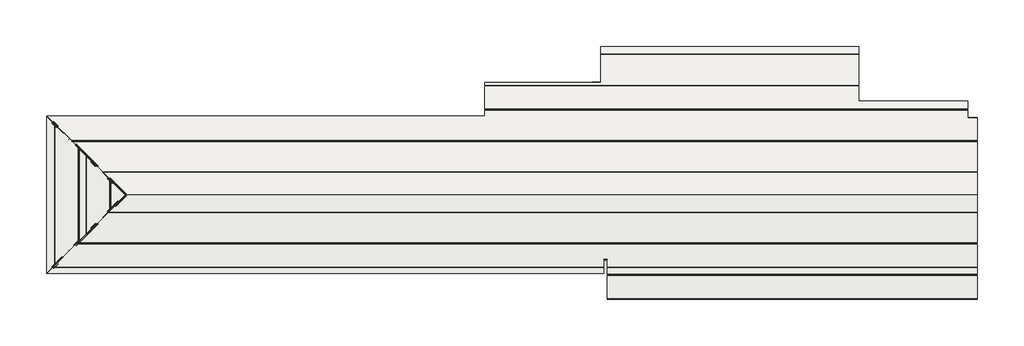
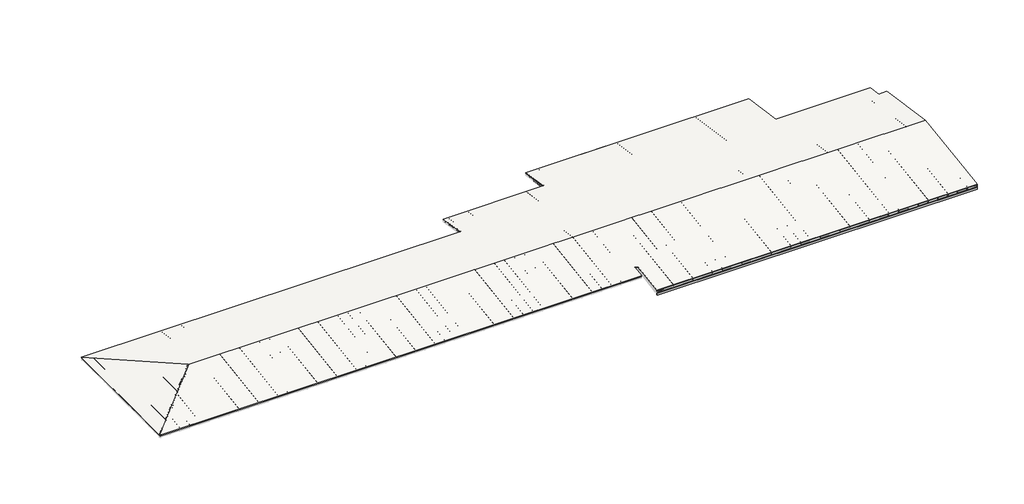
# One storey, part 5 of 5: 55 members, 42 plates, 1 roof.
"""IFC4 building model written with IfcOpenShell, lengths in millimetres."""

from ifc_helpers import new_model, si_unit, origin, place, context, project, spatial, faceted_brep, transform, mapped, element, save
from components import rectangular_mullion_e44f3b2a, rectangular_mullion_c1538282, rectangular_mullion_f0feb93f, rectangular_mullion_bbf62922, rectangular_mullion_a241c94e, rectangular_mullion_44cb0782, rectangular_mullion_a27f073b, rectangular_mullion_523a1e29, rectangular_mullion_317d1510, rectangular_mullion_25aaa9f0, rectangular_mullion_6428f46a, rectangular_mullion_7ad25f31, rectangular_mullion_cb0b4bce, rectangular_mullion_491340ea, rectangular_mullion_ae74f95d, rectangular_mullion_4a84ea43, rectangular_mullion_44281da4, rectangular_mullion_427d9570, rectangular_mullion_3ea6ea9c, rectangular_mullion_c6be1113, rectangular_mullion_7b304f96, rectangular_mullion_611aebc0, rectangular_mullion_e5008ad0, rectangular_mullion_024f61ed, rectangular_mullion_c7bb4686, rectangular_mullion_caibro_4x6_cm_94adb570, rectangular_mullion_caibro_4x6_cm_8db0eb8b, rectangular_mullion_caibro_4x6_cm_f4ec4d87, rectangular_mullion_caibro_4x6_cm_68492c16, rectangular_mullion_caibro_4x6_cm_abc5e238, rectangular_mullion_caibro_4x6_cm_1ae113c8, rectangular_mullion_caibro_4x6_cm_e77ada83, rectangular_mullion_caibro_4x6_cm_eca2e789, empty_system_panel_empty_de6883da, empty_system_panel_empty_43b0b6da, empty_system_panel_empty_60ba83e2, empty_system_panel_empty_f2c2cbee, empty_system_panel_empty_e3afee98, empty_system_panel_empty_89ad5770, empty_system_panel_empty_96c9f712, empty_system_panel_empty_3b86aaa0, empty_system_panel_empty_4ee4dad1

model = new_model("IFC4")

# Units and contexts
model_context = context("Model", 3, world=origin())
ifc_project = project(units=[si_unit("LENGTHUNIT", "METRE", prefix="MILLI")], contexts=[model_context])

# Site, building, storey
site = spatial("IfcSite", under=ifc_project)
building = spatial("IfcBuilding", under=site)
storey = spatial("IfcBuildingStorey", under=building, Name="NÍVEL 1", Elevation=3400.0)

# Members
placement = place(None, origin())
rectangular_mullion_shape = rectangular_mullion_e44f3b2a(model_context)
element("IfcMember", 1, ObjectType="Rectangular Mullion : TERÇA 6x12 cm", at=placement, inside=storey, context=model_context, shape_type="MappedRepresentation", body=[
    mapped(rectangular_mullion_shape, transform((17677.6165906, -9817.0637549, 3061.8287548), x_axis=(0.0, -0.9889363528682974, -0.1483404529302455), y_axis=(0.0, 0.1483404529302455, -0.9889363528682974), z_axis=(1.0, 0.0, 0.0))),
])
rectangular_mullion_2_shape = rectangular_mullion_c1538282(model_context)
element("IfcMember", 2, ObjectType="Rectangular Mullion : TERÇA 6x12 cm", at=placement, inside=storey, context=model_context, shape_type="MappedRepresentation", body=[
    mapped(rectangular_mullion_2_shape, transform((17257.6165906, -1867.0637549, 3235.8287548), x_axis=(0.0, 0.9889363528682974, -0.1483404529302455), y_axis=(0.0, -0.1483404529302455, -0.9889363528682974), z_axis=(-1.0, 0.0, 0.0))),
])
rectangular_mullion_3_shape = rectangular_mullion_f0feb93f(model_context)
element("IfcMember", 3, ObjectType="Rectangular Mullion : RIPA 4x2 cm", at=placement, inside=storey, context=model_context, shape_type="MappedRepresentation", body=[
    mapped(rectangular_mullion_3_shape, transform((17677.6165906, -9817.0637549, 3122.5), x_axis=(0.0, -0.9889363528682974, -0.1483404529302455), y_axis=(0.0, 0.1483404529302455, -0.9889363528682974), z_axis=(1.0, 0.0, 0.0))),
])
rectangular_mullion_4_shape = rectangular_mullion_bbf62922(model_context)
element("IfcMember", 4, ObjectType="Rectangular Mullion : RIPA 4x2 cm", at=placement, inside=storey, context=model_context, shape_type="MappedRepresentation", body=[
    mapped(rectangular_mullion_4_shape, transform((17677.6165906, -5252.0637549, 3807.25), x_axis=(0.0, -0.9889363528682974, 0.1483404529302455), y_axis=(0.0, -0.1483404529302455, -0.9889363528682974), z_axis=(1.0, 0.0, 0.0))),
])
rectangular_mullion_5_shape = rectangular_mullion_a241c94e(model_context)
element("IfcMember", 5, ObjectType="Rectangular Mullion : RIPA 4x2 cm", at=placement, inside=storey, context=model_context, shape_type="MappedRepresentation", body=[
    mapped(rectangular_mullion_5_shape, transform((17257.6165906, -1867.0637549, 3299.5), x_axis=(0.0, 0.9889363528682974, -0.1483404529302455), y_axis=(0.0, -0.1483404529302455, -0.9889363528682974), z_axis=(-1.0, 0.0, 0.0))),
])
rectangular_mullion_6_shape = rectangular_mullion_44cb0782(model_context)
element("IfcMember", 6, ObjectType="Rectangular Mullion : RIPA 4x2 cm", at=placement, inside=storey, context=model_context, shape_type="MappedRepresentation", body=[
    mapped(rectangular_mullion_6_shape, transform((1107.6165906, 1282.9362451, 2827.0), x_axis=(0.0, 0.9889363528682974, -0.1483404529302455), y_axis=(0.0, -0.1483404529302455, -0.9889363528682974), z_axis=(-1.0, 0.0, 0.0))),
])
rectangular_mullion_7_shape = rectangular_mullion_a27f073b(model_context)
element("IfcMember", 7, ObjectType="Rectangular Mullion : RIPA 4x2 cm", at=placement, inside=storey, context=model_context, shape_type="MappedRepresentation", body=[
    mapped(rectangular_mullion_7_shape, transform((12457.6165906, -1117.0637549, 3187.0), x_axis=(0.0, 0.9889363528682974, -0.1483404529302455), y_axis=(0.0, -0.1483404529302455, -0.9889363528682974), z_axis=(-1.0, 0.0, 0.0))),
])
rectangular_mullion_8_shape = rectangular_mullion_523a1e29(model_context)
element("IfcMember", 8, ObjectType="Rectangular Mullion : RIPA 4x2 cm", at=placement, inside=storey, context=model_context, shape_type="MappedRepresentation", body=[
    mapped(rectangular_mullion_8_shape, transform((12457.6165906, 917.0297946, 2881.8859676), x_axis=(0.0, -0.9889363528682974, 0.1483404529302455), y_axis=(0.0, -0.1483404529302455, -0.9889363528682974), z_axis=(1.0, 0.0, 0.0))),
])
element("IfcMember", 9, ObjectType="Rectangular Mullion : RIPA 4x2 cm", at=placement, inside=storey, context=model_context, shape_type="MappedRepresentation", body=[
    mapped(rectangular_mullion_8_shape, transform((12457.6165906, 570.902071, 2933.8051261), x_axis=(0.0, -0.9889363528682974, 0.1483404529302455), y_axis=(0.0, -0.1483404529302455, -0.9889363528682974), z_axis=(1.0, 0.0, 0.0))),
])
element("IfcMember", 10, ObjectType="Rectangular Mullion : RIPA 4x2 cm", at=placement, inside=storey, context=model_context, shape_type="MappedRepresentation", body=[
    mapped(rectangular_mullion_8_shape, transform((12457.6165906, 224.7743475, 2985.7242846), x_axis=(0.0, -0.9889363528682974, 0.1483404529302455), y_axis=(0.0, -0.1483404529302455, -0.9889363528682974), z_axis=(1.0, 0.0, 0.0))),
])
element("IfcMember", 11, ObjectType="Rectangular Mullion : RIPA 4x2 cm", at=placement, inside=storey, context=model_context, shape_type="MappedRepresentation", body=[
    mapped(rectangular_mullion_8_shape, transform((12457.6165906, -121.353376, 3037.6434432), x_axis=(0.0, -0.9889363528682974, 0.1483404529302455), y_axis=(0.0, -0.1483404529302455, -0.9889363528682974), z_axis=(1.0, 0.0, 0.0))),
])
rectangular_mullion_9_shape = rectangular_mullion_317d1510(model_context)
element("IfcMember", 12, ObjectType="Rectangular Mullion : RIPA 4x2 cm", at=placement, inside=storey, context=model_context, shape_type="MappedRepresentation", body=[
    mapped(rectangular_mullion_9_shape, transform((12457.6165906, -467.4810995, 3089.5626017), x_axis=(0.0, -0.9889363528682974, 0.1483404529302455), y_axis=(0.0, -0.1483404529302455, -0.9889363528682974), z_axis=(1.0, 0.0, 0.0))),
])
element("IfcMember", 13, ObjectType="Rectangular Mullion : RIPA 4x2 cm", at=placement, inside=storey, context=model_context, shape_type="MappedRepresentation", body=[
    mapped(rectangular_mullion_9_shape, transform((12457.6165906, -813.608823, 3141.4817602), x_axis=(0.0, -0.9889363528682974, 0.1483404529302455), y_axis=(0.0, -0.1483404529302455, -0.9889363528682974), z_axis=(1.0, 0.0, 0.0))),
])
rectangular_mullion_10_shape = rectangular_mullion_25aaa9f0(model_context)
element("IfcMember", 14, ObjectType="Rectangular Mullion : RIPA 4x2 cm", at=placement, inside=storey, context=model_context, shape_type="MappedRepresentation", body=[
    mapped(rectangular_mullion_10_shape, transform((17257.6165906, -1159.7365465, 3193.4009187), x_axis=(0.0, -0.9889363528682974, 0.1483404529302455), y_axis=(0.0, -0.1483404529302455, -0.9889363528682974), z_axis=(1.0, 0.0, 0.0))),
])
element("IfcMember", 15, ObjectType="Rectangular Mullion : RIPA 4x2 cm", at=placement, inside=storey, context=model_context, shape_type="MappedRepresentation", body=[
    mapped(rectangular_mullion_10_shape, transform((17257.6165906, -1505.86427, 3245.3200773), x_axis=(0.0, -0.9889363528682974, 0.1483404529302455), y_axis=(0.0, -0.1483404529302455, -0.9889363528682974), z_axis=(1.0, 0.0, 0.0))),
])
rectangular_mullion_11_shape = rectangular_mullion_6428f46a(model_context)
element("IfcMember", 16, ObjectType="Rectangular Mullion : RIPA 4x2 cm", at=placement, inside=storey, context=model_context, shape_type="MappedRepresentation", body=[
    mapped(rectangular_mullion_11_shape, transform((17257.6165906, -1851.9919935, 3297.2392358), x_axis=(0.0, -0.9889363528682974, 0.1483404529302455), y_axis=(0.0, -0.1483404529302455, -0.9889363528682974), z_axis=(1.0, 0.0, 0.0))),
])
rectangular_mullion_12_shape = rectangular_mullion_7ad25f31(model_context)
element("IfcMember", 17, ObjectType="Rectangular Mullion : RIPA 4x2 cm", at=placement, inside=storey, context=model_context, shape_type="MappedRepresentation", body=[
    mapped(rectangular_mullion_12_shape, transform((17677.6165906, -2198.119717, 3349.1583943), x_axis=(0.0, -0.9889363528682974, 0.1483404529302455), y_axis=(0.0, -0.1483404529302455, -0.9889363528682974), z_axis=(1.0, 0.0, 0.0))),
])
rectangular_mullion_13_shape = rectangular_mullion_cb0b4bce(model_context)
element("IfcMember", 18, ObjectType="Rectangular Mullion : RIPA 4x2 cm", at=placement, inside=storey, context=model_context, shape_type="MappedRepresentation", body=[
    mapped(rectangular_mullion_13_shape, transform((17677.6165906, -2544.2474405, 3401.0775528), x_axis=(0.0, -0.9889363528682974, 0.1483404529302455), y_axis=(0.0, -0.1483404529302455, -0.9889363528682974), z_axis=(1.0, 0.0, 0.0))),
])
rectangular_mullion_14_shape = rectangular_mullion_491340ea(model_context)
element("IfcMember", 19, ObjectType="Rectangular Mullion : RIPA 4x2 cm", at=placement, inside=storey, context=model_context, shape_type="MappedRepresentation", body=[
    mapped(rectangular_mullion_14_shape, transform((17677.6165906, -2890.375164, 3452.9967114), x_axis=(0.0, -0.9889363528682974, 0.1483404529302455), y_axis=(0.0, -0.1483404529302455, -0.9889363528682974), z_axis=(1.0, 0.0, 0.0))),
])
rectangular_mullion_15_shape = rectangular_mullion_ae74f95d(model_context)
element("IfcMember", 20, ObjectType="Rectangular Mullion : RIPA 4x2 cm", at=placement, inside=storey, context=model_context, shape_type="MappedRepresentation", body=[
    mapped(rectangular_mullion_15_shape, transform((17677.6165906, -3236.5028875, 3504.9158699), x_axis=(0.0, -0.9889363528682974, 0.1483404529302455), y_axis=(0.0, -0.1483404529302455, -0.9889363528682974), z_axis=(1.0, 0.0, 0.0))),
])
rectangular_mullion_16_shape = rectangular_mullion_4a84ea43(model_context)
element("IfcMember", 21, ObjectType="Rectangular Mullion : RIPA 4x2 cm", at=placement, inside=storey, context=model_context, shape_type="MappedRepresentation", body=[
    mapped(rectangular_mullion_16_shape, transform((17677.6165906, -3582.630611, 3556.8350284), x_axis=(0.0, -0.9889363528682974, 0.1483404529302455), y_axis=(0.0, -0.1483404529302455, -0.9889363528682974), z_axis=(1.0, 0.0, 0.0))),
])
rectangular_mullion_17_shape = rectangular_mullion_44281da4(model_context)
element("IfcMember", 22, ObjectType="Rectangular Mullion : RIPA 4x2 cm", at=placement, inside=storey, context=model_context, shape_type="MappedRepresentation", body=[
    mapped(rectangular_mullion_17_shape, transform((17677.6165906, -3928.7583345, 3608.7541869), x_axis=(0.0, -0.9889363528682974, 0.1483404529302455), y_axis=(0.0, -0.1483404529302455, -0.9889363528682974), z_axis=(1.0, 0.0, 0.0))),
])
rectangular_mullion_18_shape = rectangular_mullion_427d9570(model_context)
element("IfcMember", 23, ObjectType="Rectangular Mullion : RIPA 4x2 cm", at=placement, inside=storey, context=model_context, shape_type="MappedRepresentation", body=[
    mapped(rectangular_mullion_18_shape, transform((17677.6165906, -4274.886058, 3660.6733455), x_axis=(0.0, -0.9889363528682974, 0.1483404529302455), y_axis=(0.0, -0.1483404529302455, -0.9889363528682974), z_axis=(1.0, 0.0, 0.0))),
])
rectangular_mullion_19_shape = rectangular_mullion_3ea6ea9c(model_context)
element("IfcMember", 24, ObjectType="Rectangular Mullion : RIPA 4x2 cm", at=placement, inside=storey, context=model_context, shape_type="MappedRepresentation", body=[
    mapped(rectangular_mullion_19_shape, transform((17677.6165906, -4621.0137815, 3712.592504), x_axis=(0.0, -0.9889363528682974, 0.1483404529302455), y_axis=(0.0, -0.1483404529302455, -0.9889363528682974), z_axis=(1.0, 0.0, 0.0))),
])
rectangular_mullion_20_shape = rectangular_mullion_c6be1113(model_context)
element("IfcMember", 25, ObjectType="Rectangular Mullion : RIPA 4x2 cm", at=placement, inside=storey, context=model_context, shape_type="MappedRepresentation", body=[
    mapped(rectangular_mullion_20_shape, transform((17677.6165906, -4967.141505, 3764.5116625), x_axis=(0.0, -0.9889363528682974, 0.1483404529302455), y_axis=(0.0, -0.1483404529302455, -0.9889363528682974), z_axis=(1.0, 0.0, 0.0))),
])
rectangular_mullion_21_shape = rectangular_mullion_7b304f96(model_context)
element("IfcMember", 26, ObjectType="Rectangular Mullion : TERÇA 6x12 cm", at=placement, inside=storey, context=model_context, shape_type="MappedRepresentation", body=[
    mapped(rectangular_mullion_21_shape, transform((11857.6165906, -1377.8453298, 3162.445991), x_axis=(0.0, -0.9889363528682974, 0.1483404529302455), y_axis=(0.0, -0.1483404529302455, -0.9889363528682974), z_axis=(1.0, 0.0, 0.0))),
])
rectangular_mullion_22_shape = rectangular_mullion_611aebc0(model_context)
element("IfcMember", 27, ObjectType="Rectangular Mullion : TERÇA 6x12 cm", at=placement, inside=storey, context=model_context, shape_type="MappedRepresentation", body=[
    mapped(rectangular_mullion_22_shape, transform((1707.6165906, 682.9362451, 2853.3287548), x_axis=(0.0, 0.9889363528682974, -0.1483404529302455), y_axis=(0.0, -0.1483404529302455, -0.9889363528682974), z_axis=(-1.0, 0.0, 0.0))),
])
rectangular_mullion_23_shape = rectangular_mullion_e5008ad0(model_context)
element("IfcMember", 28, ObjectType="Rectangular Mullion : TERÇA 6x12 cm", at=placement, inside=storey, context=model_context, shape_type="MappedRepresentation", body=[
    mapped(rectangular_mullion_23_shape, transform((11857.6165906, -1717.0637549, 3213.3287548), x_axis=(0.0, 0.9889363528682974, -0.1483404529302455), y_axis=(0.0, -0.1483404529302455, -0.9889363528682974), z_axis=(-1.0, 0.0, 0.0))),
])
rectangular_mullion_24_shape = rectangular_mullion_024f61ed(model_context)
element("IfcMember", 29, ObjectType="Rectangular Mullion : TERÇA 6x12 cm", at=placement, inside=storey, context=model_context, shape_type="MappedRepresentation", body=[
    mapped(rectangular_mullion_24_shape, transform((17677.6165906, -3319.9545423, 3453.7623729), x_axis=(0.0, -0.9889363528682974, 0.1483404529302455), y_axis=(0.0, -0.1483404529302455, -0.9889363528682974), z_axis=(1.0, 0.0, 0.0))),
])
rectangular_mullion_25_shape = rectangular_mullion_c7bb4686(model_context)
element("IfcMember", 30, ObjectType="Rectangular Mullion : TERÇA 6x12 cm", at=placement, inside=storey, context=model_context, shape_type="MappedRepresentation", body=[
    mapped(rectangular_mullion_25_shape, transform((17677.6165906, -5262.0637549, 3745.0787548), x_axis=(0.0, -0.9889363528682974, 0.1483404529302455), y_axis=(0.0, -0.1483404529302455, -0.9889363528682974), z_axis=(1.0, 0.0, 0.0))),
])
rectangular_mullion_caibro_4x6_cm_shape = rectangular_mullion_caibro_4x6_cm_94adb570(model_context)
element("IfcMember", 31, ObjectType="Rectangular Mullion : CAIBRO 4x6 cm", at=placement, inside=storey, context=model_context, shape_type="MappedRepresentation", body=[
    mapped(rectangular_mullion_caibro_4x6_cm_shape, transform((17677.6165906, -5252.0637549, 3807.25), x_axis=(1.0, 0.0, 0.0), y_axis=(0.0, 0.14834045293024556, -0.9889363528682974), z_axis=(0.0, 0.9889363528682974, 0.14834045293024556))),
])
rectangular_mullion_caibro_4x6_cm_2_shape = rectangular_mullion_caibro_4x6_cm_8db0eb8b(model_context)
element("IfcMember", 32, ObjectType="Rectangular Mullion : CAIBRO 4x6 cm", at=placement, inside=storey, context=model_context, shape_type="MappedRepresentation", body=[
    mapped(rectangular_mullion_caibro_4x6_cm_2_shape, transform((17677.6165906, -8717.0637549, 3287.5), x_axis=(1.0, 0.0, 0.0), y_axis=(0.0, 0.14834045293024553, -0.9889363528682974), z_axis=(0.0, 0.9889363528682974, 0.14834045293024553))),
])
rectangular_mullion_caibro_4x6_cm_3_shape = rectangular_mullion_caibro_4x6_cm_f4ec4d87(model_context)
element("IfcMember", 33, ObjectType="Rectangular Mullion : CAIBRO 4x6 cm", at=placement, inside=storey, context=model_context, shape_type="MappedRepresentation", body=[
    mapped(rectangular_mullion_caibro_4x6_cm_3_shape, transform((17677.6165906, -1867.0637549, 3299.5), x_axis=(1.0, 0.0, 0.0), y_axis=(0.0, -0.14834045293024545, -0.9889363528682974), z_axis=(0.0, 0.9889363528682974, -0.14834045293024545))),
])
rectangular_mullion_caibro_4x6_cm_4_shape = rectangular_mullion_caibro_4x6_cm_68492c16(model_context)
element("IfcMember", 34, ObjectType="Rectangular Mullion : CAIBRO 4x6 cm", at=placement, inside=storey, context=model_context, shape_type="MappedRepresentation", body=[
    mapped(rectangular_mullion_caibro_4x6_cm_4_shape, transform((12457.6165906, 1282.9362451, 2827.0), x_axis=(1.0, 0.0, 0.0), y_axis=(0.0, -0.1483404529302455, -0.9889363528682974), z_axis=(0.0, 0.9889363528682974, -0.1483404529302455))),
])
rectangular_mullion_caibro_4x6_cm_5_shape = rectangular_mullion_caibro_4x6_cm_abc5e238(model_context)
element("IfcMember", 35, ObjectType="Rectangular Mullion : CAIBRO 4x6 cm", at=placement, inside=storey, context=model_context, shape_type="MappedRepresentation", body=[
    mapped(rectangular_mullion_caibro_4x6_cm_5_shape, transform((17257.6165906, -1117.0637549, 3187.0), x_axis=(1.0, 0.0, 0.0), y_axis=(0.0, -0.14834045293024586, -0.9889363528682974), z_axis=(0.0, 0.9889363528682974, -0.14834045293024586))),
])
rectangular_mullion_caibro_4x6_cm_6_shape = rectangular_mullion_caibro_4x6_cm_1ae113c8(model_context)
element("IfcMember", 36, ObjectType="Rectangular Mullion : CAIBRO 4x6 cm", at=placement, inside=storey, context=model_context, shape_type="MappedRepresentation", body=[
    mapped(rectangular_mullion_caibro_4x6_cm_6_shape, transform((12186.3138406, -5252.0637549, 3807.25), x_axis=(-1.0, 0.0, 0.0), y_axis=(0.0, -0.14834045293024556, -0.9889363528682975), z_axis=(0.0, -0.9889363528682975, 0.14834045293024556))),
])
rectangular_mullion_caibro_4x6_cm_7_shape = rectangular_mullion_caibro_4x6_cm_e77ada83(model_context)
element("IfcMember", 37, ObjectType="Rectangular Mullion : CAIBRO 4x6 cm", at=placement, inside=storey, context=model_context, shape_type="MappedRepresentation", body=[
    mapped(rectangular_mullion_caibro_4x6_cm_7_shape, transform((13184.7325224, -5252.0637549, 3807.25), x_axis=(1.0, 0.0, 0.0), y_axis=(0.0, 0.14834045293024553, -0.9889363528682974), z_axis=(0.0, 0.9889363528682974, 0.14834045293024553))),
])
element("IfcMember", 38, ObjectType="Rectangular Mullion : CAIBRO 4x6 cm", at=placement, inside=storey, context=model_context, shape_type="MappedRepresentation", body=[
    mapped(rectangular_mullion_caibro_4x6_cm_7_shape, transform((13683.9418633, -5252.0637549, 3807.25), x_axis=(1.0, 0.0, 0.0), y_axis=(0.0, 0.1483404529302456, -0.9889363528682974), z_axis=(0.0, 0.9889363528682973, 0.14834045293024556))),
])
element("IfcMember", 39, ObjectType="Rectangular Mullion : CAIBRO 4x6 cm", at=placement, inside=storey, context=model_context, shape_type="MappedRepresentation", body=[
    mapped(rectangular_mullion_caibro_4x6_cm_7_shape, transform((14183.1512043, -5252.0637549, 3807.25), x_axis=(1.0, 0.0, 0.0), y_axis=(0.0, 0.14834045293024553, -0.9889363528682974), z_axis=(0.0, 0.9889363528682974, 0.14834045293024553))),
])
element("IfcMember", 40, ObjectType="Rectangular Mullion : CAIBRO 4x6 cm", at=placement, inside=storey, context=model_context, shape_type="MappedRepresentation", body=[
    mapped(rectangular_mullion_caibro_4x6_cm_7_shape, transform((14682.3605452, -5252.0637549, 3807.25), x_axis=(1.0, 0.0, 0.0), y_axis=(0.0, 0.14834045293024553, -0.9889363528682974), z_axis=(0.0, 0.9889363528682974, 0.14834045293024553))),
])
element("IfcMember", 41, ObjectType="Rectangular Mullion : CAIBRO 4x6 cm", at=placement, inside=storey, context=model_context, shape_type="MappedRepresentation", body=[
    mapped(rectangular_mullion_caibro_4x6_cm_7_shape, transform((15181.5698861, -5252.0637549, 3807.25), x_axis=(1.0, 0.0, 0.0), y_axis=(0.0, 0.1483404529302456, -0.9889363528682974), z_axis=(0.0, 0.9889363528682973, 0.14834045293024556))),
])
element("IfcMember", 42, ObjectType="Rectangular Mullion : CAIBRO 4x6 cm", at=placement, inside=storey, context=model_context, shape_type="MappedRepresentation", body=[
    mapped(rectangular_mullion_caibro_4x6_cm_7_shape, transform((15680.779227, -5252.0637549, 3807.25), x_axis=(1.0, 0.0, 0.0), y_axis=(0.0, 0.1483404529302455, -0.9889363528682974), z_axis=(0.0, 0.9889363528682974, 0.1483404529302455))),
])
element("IfcMember", 43, ObjectType="Rectangular Mullion : CAIBRO 4x6 cm", at=placement, inside=storey, context=model_context, shape_type="MappedRepresentation", body=[
    mapped(rectangular_mullion_caibro_4x6_cm_7_shape, transform((16179.9885679, -5252.0637549, 3807.25), x_axis=(1.0, 0.0, 0.0), y_axis=(0.0, 0.1483404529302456, -0.9889363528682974), z_axis=(0.0, 0.9889363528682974, 0.1483404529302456))),
])
element("IfcMember", 44, ObjectType="Rectangular Mullion : CAIBRO 4x6 cm", at=placement, inside=storey, context=model_context, shape_type="MappedRepresentation", body=[
    mapped(rectangular_mullion_caibro_4x6_cm_7_shape, transform((16679.1979088, -5252.0637549, 3807.25), x_axis=(1.0, 0.0, 0.0), y_axis=(0.0, 0.1483404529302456, -0.9889363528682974), z_axis=(0.0, 0.9889363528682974, 0.1483404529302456))),
])
element("IfcMember", 45, ObjectType="Rectangular Mullion : CAIBRO 4x6 cm", at=placement, inside=storey, context=model_context, shape_type="MappedRepresentation", body=[
    mapped(rectangular_mullion_caibro_4x6_cm_7_shape, transform((17178.4072497, -5252.0637549, 3807.25), x_axis=(1.0, 0.0, 0.0), y_axis=(0.0, 0.14834045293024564, -0.9889363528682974), z_axis=(0.0, 0.9889363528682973, 0.14834045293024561))),
])
rectangular_mullion_caibro_4x6_cm_8_shape = rectangular_mullion_caibro_4x6_cm_eca2e789(model_context)
element("IfcMember", 46, ObjectType="Rectangular Mullion : CAIBRO 4x6 cm", at=placement, inside=storey, context=model_context, shape_type="MappedRepresentation", body=[
    mapped(rectangular_mullion_caibro_4x6_cm_8_shape, transform((17178.4072497, -5252.0637549, 3807.25), x_axis=(-1.0, 0.0, 0.0), y_axis=(0.0, -0.1483404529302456, -0.9889363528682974), z_axis=(0.0, -0.9889363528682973, 0.14834045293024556))),
])
element("IfcMember", 47, ObjectType="Rectangular Mullion : CAIBRO 4x6 cm", at=placement, inside=storey, context=model_context, shape_type="MappedRepresentation", body=[
    mapped(rectangular_mullion_caibro_4x6_cm_8_shape, transform((16679.1979088, -5252.0637549, 3807.25), x_axis=(-1.0, 0.0, 0.0), y_axis=(0.0, -0.14834045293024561, -0.9889363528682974), z_axis=(0.0, -0.9889363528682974, 0.14834045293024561))),
])
element("IfcMember", 48, ObjectType="Rectangular Mullion : CAIBRO 4x6 cm", at=placement, inside=storey, context=model_context, shape_type="MappedRepresentation", body=[
    mapped(rectangular_mullion_caibro_4x6_cm_8_shape, transform((16179.9885679, -5252.0637549, 3807.25), x_axis=(-1.0, 0.0, 0.0), y_axis=(0.0, -0.14834045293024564, -0.9889363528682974), z_axis=(0.0, -0.9889363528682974, 0.14834045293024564))),
])
element("IfcMember", 49, ObjectType="Rectangular Mullion : CAIBRO 4x6 cm", at=placement, inside=storey, context=model_context, shape_type="MappedRepresentation", body=[
    mapped(rectangular_mullion_caibro_4x6_cm_8_shape, transform((15680.779227, -5252.0637549, 3807.25), x_axis=(-1.0, 0.0, 0.0), y_axis=(0.0, -0.14834045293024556, -0.9889363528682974), z_axis=(0.0, -0.9889363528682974, 0.14834045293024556))),
])
element("IfcMember", 50, ObjectType="Rectangular Mullion : CAIBRO 4x6 cm", at=placement, inside=storey, context=model_context, shape_type="MappedRepresentation", body=[
    mapped(rectangular_mullion_caibro_4x6_cm_8_shape, transform((15181.5698861, -5252.0637549, 3807.25), x_axis=(-1.0, 0.0, 0.0), y_axis=(0.0, -0.14834045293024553, -0.9889363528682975), z_axis=(0.0, -0.9889363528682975, 0.14834045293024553))),
])
element("IfcMember", 51, ObjectType="Rectangular Mullion : CAIBRO 4x6 cm", at=placement, inside=storey, context=model_context, shape_type="MappedRepresentation", body=[
    mapped(rectangular_mullion_caibro_4x6_cm_8_shape, transform((14682.3605452, -5252.0637549, 3807.25), x_axis=(-1.0, 0.0, 0.0), y_axis=(0.0, -0.1483404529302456, -0.9889363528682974), z_axis=(0.0, -0.9889363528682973, 0.14834045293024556))),
])
element("IfcMember", 52, ObjectType="Rectangular Mullion : CAIBRO 4x6 cm", at=placement, inside=storey, context=model_context, shape_type="MappedRepresentation", body=[
    mapped(rectangular_mullion_caibro_4x6_cm_8_shape, transform((14183.1512043, -5252.0637549, 3807.25), x_axis=(-1.0, 0.0, 0.0), y_axis=(0.0, -0.14834045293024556, -0.9889363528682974), z_axis=(0.0, -0.9889363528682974, 0.14834045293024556))),
])
element("IfcMember", 53, ObjectType="Rectangular Mullion : CAIBRO 4x6 cm", at=placement, inside=storey, context=model_context, shape_type="MappedRepresentation", body=[
    mapped(rectangular_mullion_caibro_4x6_cm_8_shape, transform((13683.9418633, -5252.0637549, 3807.25), x_axis=(-1.0, 0.0, 0.0), y_axis=(0.0, -0.14834045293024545, -0.9889363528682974), z_axis=(0.0, -0.9889363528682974, 0.14834045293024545))),
])
element("IfcMember", 54, ObjectType="Rectangular Mullion : CAIBRO 4x6 cm", at=placement, inside=storey, context=model_context, shape_type="MappedRepresentation", body=[
    mapped(rectangular_mullion_caibro_4x6_cm_8_shape, transform((13184.7325224, -5252.0637549, 3807.25), x_axis=(-1.0, 0.0, 0.0), y_axis=(0.0, -0.1483404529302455, -0.9889363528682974), z_axis=(0.0, -0.9889363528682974, 0.1483404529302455))),
])
element("IfcMember", 55, ObjectType="Rectangular Mullion : CAIBRO 4x6 cm", at=placement, inside=storey, context=model_context, shape_type="MappedRepresentation", body=[
    mapped(rectangular_mullion_caibro_4x6_cm_8_shape, transform((12685.5231815, -5252.0637549, 3807.25), x_axis=(-1.0, 0.0, 0.0), y_axis=(0.0, -0.14834045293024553, -0.9889363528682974), z_axis=(0.0, -0.9889363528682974, 0.14834045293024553))),
])

# Plates
empty_system_panel_empty_shape = empty_system_panel_empty_de6883da(model_context)
element("IfcPlate", 56, ObjectType="Empty System Panel : Empty", at=placement, inside=storey, context=model_context, shape_type="MappedRepresentation", body=[
    mapped(empty_system_panel_empty_shape, transform((17418.0119202, -1117.0637549, 3187.0), x_axis=(-1.0, 0.0, 0.0), y_axis=(0.0, -0.1483404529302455, -0.9889363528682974), z_axis=(0.0, -0.9889363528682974, 0.1483404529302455))),
])
empty_system_panel_empty_2_shape = empty_system_panel_empty_43b0b6da(model_context)
element("IfcPlate", 57, ObjectType="Empty System Panel : Empty", at=placement, inside=storey, context=model_context, shape_type="MappedRepresentation", body=[
    mapped(empty_system_panel_empty_2_shape, transform((16429.5932384, -9817.0637549, 3122.5), x_axis=(1.0, 0.0, 0.0), y_axis=(0.0, 0.1483404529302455, -0.9889363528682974), z_axis=(0.0, 0.9889363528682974, 0.1483404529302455))),
])
element("IfcPlate", 58, ObjectType="Empty System Panel : Empty", at=placement, inside=storey, context=model_context, shape_type="MappedRepresentation", body=[
    mapped(empty_system_panel_empty_2_shape, transform((16928.8025793, -9817.0637549, 3122.5), x_axis=(1.0, 0.0, 0.0), y_axis=(0.0, 0.1483404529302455, -0.9889363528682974), z_axis=(0.0, 0.9889363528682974, 0.1483404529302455))),
])
empty_system_panel_empty_3_shape = empty_system_panel_empty_60ba83e2(model_context)
element("IfcPlate", 59, ObjectType="Empty System Panel : Empty", at=placement, inside=storey, context=model_context, shape_type="MappedRepresentation", body=[
    mapped(empty_system_panel_empty_3_shape, transform((17418.0119202, -9817.0637549, 3122.5), x_axis=(1.0, 0.0, 0.0), y_axis=(0.0, 0.1483404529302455, -0.9889363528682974), z_axis=(0.0, 0.9889363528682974, 0.1483404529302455))),
])
empty_system_panel_empty_4_shape = empty_system_panel_empty_f2c2cbee(model_context)
element("IfcPlate", 60, ObjectType="Empty System Panel : Empty", at=placement, inside=storey, context=model_context, shape_type="MappedRepresentation", body=[
    mapped(empty_system_panel_empty_4_shape, transform((16928.8025793, -1117.0637549, 3187.0), x_axis=(-1.0, 0.0, 0.0), y_axis=(0.0, -0.1483404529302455, -0.9889363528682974), z_axis=(0.0, -0.9889363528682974, 0.1483404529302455))),
])
element("IfcPlate", 61, ObjectType="Empty System Panel : Empty", at=placement, inside=storey, context=model_context, shape_type="MappedRepresentation", body=[
    mapped(empty_system_panel_empty_4_shape, transform((16429.5932384, -1117.0637549, 3187.0), x_axis=(-1.0, 0.0, 0.0), y_axis=(0.0, -0.1483404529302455, -0.9889363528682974), z_axis=(0.0, -0.9889363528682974, 0.1483404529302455))),
])
element("IfcPlate", 62, ObjectType="Empty System Panel : Empty", at=placement, inside=storey, context=model_context, shape_type="MappedRepresentation", body=[
    mapped(empty_system_panel_empty_4_shape, transform((15930.3838974, -1117.0637549, 3187.0), x_axis=(-1.0, 0.0, 0.0), y_axis=(0.0, -0.1483404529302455, -0.9889363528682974), z_axis=(0.0, -0.9889363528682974, 0.1483404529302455))),
])
element("IfcPlate", 63, ObjectType="Empty System Panel : Empty", at=placement, inside=storey, context=model_context, shape_type="MappedRepresentation", body=[
    mapped(empty_system_panel_empty_4_shape, transform((15431.1745565, -1117.0637549, 3187.0), x_axis=(-1.0, 0.0, 0.0), y_axis=(0.0, -0.1483404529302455, -0.9889363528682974), z_axis=(0.0, -0.9889363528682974, 0.1483404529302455))),
])
element("IfcPlate", 64, ObjectType="Empty System Panel : Empty", at=placement, inside=storey, context=model_context, shape_type="MappedRepresentation", body=[
    mapped(empty_system_panel_empty_4_shape, transform((14931.9652156, -1117.0637549, 3187.0), x_axis=(-1.0, 0.0, 0.0), y_axis=(0.0, -0.1483404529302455, -0.9889363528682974), z_axis=(0.0, -0.9889363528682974, 0.1483404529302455))),
])
element("IfcPlate", 65, ObjectType="Empty System Panel : Empty", at=placement, inside=storey, context=model_context, shape_type="MappedRepresentation", body=[
    mapped(empty_system_panel_empty_4_shape, transform((14432.7558747, -1117.0637549, 3187.0), x_axis=(-1.0, 0.0, 0.0), y_axis=(0.0, -0.1483404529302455, -0.9889363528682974), z_axis=(0.0, -0.9889363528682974, 0.1483404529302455))),
])
element("IfcPlate", 66, ObjectType="Empty System Panel : Empty", at=placement, inside=storey, context=model_context, shape_type="MappedRepresentation", body=[
    mapped(empty_system_panel_empty_4_shape, transform((13933.5465338, -1117.0637549, 3187.0), x_axis=(-1.0, 0.0, 0.0), y_axis=(0.0, -0.1483404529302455, -0.9889363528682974), z_axis=(0.0, -0.9889363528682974, 0.1483404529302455))),
])
element("IfcPlate", 67, ObjectType="Empty System Panel : Empty", at=placement, inside=storey, context=model_context, shape_type="MappedRepresentation", body=[
    mapped(empty_system_panel_empty_4_shape, transform((13434.3371929, -1117.0637549, 3187.0), x_axis=(-1.0, 0.0, 0.0), y_axis=(0.0, -0.1483404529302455, -0.9889363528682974), z_axis=(0.0, -0.9889363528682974, 0.1483404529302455))),
])
element("IfcPlate", 68, ObjectType="Empty System Panel : Empty", at=placement, inside=storey, context=model_context, shape_type="MappedRepresentation", body=[
    mapped(empty_system_panel_empty_4_shape, transform((12935.127852, -1117.0637549, 3187.0), x_axis=(-1.0, 0.0, 0.0), y_axis=(0.0, -0.1483404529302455, -0.9889363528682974), z_axis=(0.0, -0.9889363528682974, 0.1483404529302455))),
])
empty_system_panel_empty_5_shape = empty_system_panel_empty_e3afee98(model_context)
element("IfcPlate", 69, ObjectType="Empty System Panel : Empty", at=placement, inside=storey, context=model_context, shape_type="MappedRepresentation", body=[
    mapped(empty_system_panel_empty_5_shape, transform((12435.9185111, 1282.9362451, 2827.0), x_axis=(-1.0, 0.0, 0.0), y_axis=(0.0, -0.1483404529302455, -0.9889363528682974), z_axis=(0.0, -0.9889363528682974, 0.1483404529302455))),
])
empty_system_panel_empty_6_shape = empty_system_panel_empty_89ad5770(model_context)
element("IfcPlate", 70, ObjectType="Empty System Panel : Empty", at=placement, inside=storey, context=model_context, shape_type="MappedRepresentation", body=[
    mapped(empty_system_panel_empty_6_shape, transform((11936.7091702, 1282.9362451, 2827.0), x_axis=(-1.0, 0.0, 0.0), y_axis=(0.0, -0.1483404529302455, -0.9889363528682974), z_axis=(0.0, -0.9889363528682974, 0.1483404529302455))),
])
element("IfcPlate", 71, ObjectType="Empty System Panel : Empty", at=placement, inside=storey, context=model_context, shape_type="MappedRepresentation", body=[
    mapped(empty_system_panel_empty_6_shape, transform((11437.4998292, 1282.9362451, 2827.0), x_axis=(-1.0, 0.0, 0.0), y_axis=(0.0, -0.1483404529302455, -0.9889363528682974), z_axis=(0.0, -0.9889363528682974, 0.1483404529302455))),
])
element("IfcPlate", 72, ObjectType="Empty System Panel : Empty", at=placement, inside=storey, context=model_context, shape_type="MappedRepresentation", body=[
    mapped(empty_system_panel_empty_6_shape, transform((10938.2904883, 1282.9362451, 2827.0), x_axis=(-1.0, 0.0, 0.0), y_axis=(0.0, -0.1483404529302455, -0.9889363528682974), z_axis=(0.0, -0.9889363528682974, 0.1483404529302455))),
])
element("IfcPlate", 73, ObjectType="Empty System Panel : Empty", at=placement, inside=storey, context=model_context, shape_type="MappedRepresentation", body=[
    mapped(empty_system_panel_empty_6_shape, transform((10439.0811474, 1282.9362451, 2827.0), x_axis=(-1.0, 0.0, 0.0), y_axis=(0.0, -0.1483404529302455, -0.9889363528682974), z_axis=(0.0, -0.9889363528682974, 0.1483404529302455))),
])
element("IfcPlate", 74, ObjectType="Empty System Panel : Empty", at=placement, inside=storey, context=model_context, shape_type="MappedRepresentation", body=[
    mapped(empty_system_panel_empty_6_shape, transform((9939.8718065, 1282.9362451, 2827.0), x_axis=(-1.0, 0.0, 0.0), y_axis=(0.0, -0.1483404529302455, -0.9889363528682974), z_axis=(0.0, -0.9889363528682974, 0.1483404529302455))),
])
element("IfcPlate", 75, ObjectType="Empty System Panel : Empty", at=placement, inside=storey, context=model_context, shape_type="MappedRepresentation", body=[
    mapped(empty_system_panel_empty_6_shape, transform((9440.6624656, 1282.9362451, 2827.0), x_axis=(-1.0, 0.0, 0.0), y_axis=(0.0, -0.1483404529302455, -0.9889363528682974), z_axis=(0.0, -0.9889363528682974, 0.1483404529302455))),
])
element("IfcPlate", 76, ObjectType="Empty System Panel : Empty", at=placement, inside=storey, context=model_context, shape_type="MappedRepresentation", body=[
    mapped(empty_system_panel_empty_6_shape, transform((8941.4531247, 1282.9362451, 2827.0), x_axis=(-1.0, 0.0, 0.0), y_axis=(0.0, -0.1483404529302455, -0.9889363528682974), z_axis=(0.0, -0.9889363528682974, 0.1483404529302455))),
])
element("IfcPlate", 77, ObjectType="Empty System Panel : Empty", at=placement, inside=storey, context=model_context, shape_type="MappedRepresentation", body=[
    mapped(empty_system_panel_empty_6_shape, transform((8442.2437838, 1282.9362451, 2827.0), x_axis=(-1.0, 0.0, 0.0), y_axis=(0.0, -0.1483404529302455, -0.9889363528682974), z_axis=(0.0, -0.9889363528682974, 0.1483404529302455))),
])
element("IfcPlate", 78, ObjectType="Empty System Panel : Empty", at=placement, inside=storey, context=model_context, shape_type="MappedRepresentation", body=[
    mapped(empty_system_panel_empty_6_shape, transform((7943.0344429, 1282.9362451, 2827.0), x_axis=(-1.0, 0.0, 0.0), y_axis=(0.0, -0.1483404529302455, -0.9889363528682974), z_axis=(0.0, -0.9889363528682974, 0.1483404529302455))),
])
element("IfcPlate", 79, ObjectType="Empty System Panel : Empty", at=placement, inside=storey, context=model_context, shape_type="MappedRepresentation", body=[
    mapped(empty_system_panel_empty_6_shape, transform((7443.825102, 1282.9362451, 2827.0), x_axis=(-1.0, 0.0, 0.0), y_axis=(0.0, -0.1483404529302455, -0.9889363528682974), z_axis=(0.0, -0.9889363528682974, 0.1483404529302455))),
])
element("IfcPlate", 80, ObjectType="Empty System Panel : Empty", at=placement, inside=storey, context=model_context, shape_type="MappedRepresentation", body=[
    mapped(empty_system_panel_empty_6_shape, transform((6944.615761, 1282.9362451, 2827.0), x_axis=(-1.0, 0.0, 0.0), y_axis=(0.0, -0.1483404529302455, -0.9889363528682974), z_axis=(0.0, -0.9889363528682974, 0.1483404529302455))),
])
element("IfcPlate", 81, ObjectType="Empty System Panel : Empty", at=placement, inside=storey, context=model_context, shape_type="MappedRepresentation", body=[
    mapped(empty_system_panel_empty_6_shape, transform((6445.4064201, 1282.9362451, 2827.0), x_axis=(-1.0, 0.0, 0.0), y_axis=(0.0, -0.1483404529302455, -0.9889363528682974), z_axis=(0.0, -0.9889363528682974, 0.1483404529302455))),
])
element("IfcPlate", 82, ObjectType="Empty System Panel : Empty", at=placement, inside=storey, context=model_context, shape_type="MappedRepresentation", body=[
    mapped(empty_system_panel_empty_6_shape, transform((5946.1970792, 1282.9362451, 2827.0), x_axis=(-1.0, 0.0, 0.0), y_axis=(0.0, -0.1483404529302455, -0.9889363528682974), z_axis=(0.0, -0.9889363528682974, 0.1483404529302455))),
])
element("IfcPlate", 83, ObjectType="Empty System Panel : Empty", at=placement, inside=storey, context=model_context, shape_type="MappedRepresentation", body=[
    mapped(empty_system_panel_empty_6_shape, transform((5446.9877383, 1282.9362451, 2827.0), x_axis=(-1.0, 0.0, 0.0), y_axis=(0.0, -0.1483404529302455, -0.9889363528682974), z_axis=(0.0, -0.9889363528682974, 0.1483404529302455))),
])
element("IfcPlate", 84, ObjectType="Empty System Panel : Empty", at=placement, inside=storey, context=model_context, shape_type="MappedRepresentation", body=[
    mapped(empty_system_panel_empty_6_shape, transform((4947.7783974, 1282.9362451, 2827.0), x_axis=(-1.0, 0.0, 0.0), y_axis=(0.0, -0.1483404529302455, -0.9889363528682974), z_axis=(0.0, -0.9889363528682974, 0.1483404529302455))),
])
element("IfcPlate", 85, ObjectType="Empty System Panel : Empty", at=placement, inside=storey, context=model_context, shape_type="MappedRepresentation", body=[
    mapped(empty_system_panel_empty_6_shape, transform((4448.5690565, 1282.9362451, 2827.0), x_axis=(-1.0, 0.0, 0.0), y_axis=(0.0, -0.1483404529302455, -0.9889363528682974), z_axis=(0.0, -0.9889363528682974, 0.1483404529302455))),
])
element("IfcPlate", 86, ObjectType="Empty System Panel : Empty", at=placement, inside=storey, context=model_context, shape_type="MappedRepresentation", body=[
    mapped(empty_system_panel_empty_6_shape, transform((3949.3597156, 1282.9362451, 2827.0), x_axis=(-1.0, 0.0, 0.0), y_axis=(0.0, -0.1483404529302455, -0.9889363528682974), z_axis=(0.0, -0.9889363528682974, 0.1483404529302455))),
])
element("IfcPlate", 87, ObjectType="Empty System Panel : Empty", at=placement, inside=storey, context=model_context, shape_type="MappedRepresentation", body=[
    mapped(empty_system_panel_empty_6_shape, transform((3450.1503747, 1282.9362451, 2827.0), x_axis=(-1.0, 0.0, 0.0), y_axis=(0.0, -0.1483404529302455, -0.9889363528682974), z_axis=(0.0, -0.9889363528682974, 0.1483404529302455))),
])
element("IfcPlate", 88, ObjectType="Empty System Panel : Empty", at=placement, inside=storey, context=model_context, shape_type="MappedRepresentation", body=[
    mapped(empty_system_panel_empty_6_shape, transform((2950.9410338, 1282.9362451, 2827.0), x_axis=(-1.0, 0.0, 0.0), y_axis=(0.0, -0.1483404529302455, -0.9889363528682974), z_axis=(0.0, -0.9889363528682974, 0.1483404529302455))),
])
element("IfcPlate", 89, ObjectType="Empty System Panel : Empty", at=placement, inside=storey, context=model_context, shape_type="MappedRepresentation", body=[
    mapped(empty_system_panel_empty_6_shape, transform((2451.7316928, 1282.9362451, 2827.0), x_axis=(-1.0, 0.0, 0.0), y_axis=(0.0, -0.1483404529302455, -0.9889363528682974), z_axis=(0.0, -0.9889363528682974, 0.1483404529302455))),
])
element("IfcPlate", 90, ObjectType="Empty System Panel : Empty", at=placement, inside=storey, context=model_context, shape_type="MappedRepresentation", body=[
    mapped(empty_system_panel_empty_6_shape, transform((1952.5223519, 1282.9362451, 2827.0), x_axis=(-1.0, 0.0, 0.0), y_axis=(0.0, -0.1483404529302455, -0.9889363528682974), z_axis=(0.0, -0.9889363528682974, 0.1483404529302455))),
])
element("IfcPlate", 91, ObjectType="Empty System Panel : Empty", at=placement, inside=storey, context=model_context, shape_type="MappedRepresentation", body=[
    mapped(empty_system_panel_empty_6_shape, transform((1453.313011, 1282.9362451, 2827.0), x_axis=(-1.0, 0.0, 0.0), y_axis=(0.0, -0.1483404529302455, -0.9889363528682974), z_axis=(0.0, -0.9889363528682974, 0.1483404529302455))),
])
empty_system_panel_empty_7_shape = empty_system_panel_empty_96c9f712(model_context)
element("IfcPlate", 92, ObjectType="Empty System Panel : Empty", at=placement, inside=storey, context=model_context, shape_type="MappedRepresentation", body=[
    mapped(empty_system_panel_empty_7_shape, transform((954.1036701, 1282.9362451, 2827.0), x_axis=(-1.0, 0.0, 0.0), y_axis=(0.0, -0.1483404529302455, -0.9889363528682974), z_axis=(0.0, -0.9889363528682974, 0.1483404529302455))),
])
empty_system_panel_empty_8_shape = empty_system_panel_empty_3b86aaa0(model_context)
element("IfcPlate", 93, ObjectType="Empty System Panel : Empty", at=placement, inside=storey, context=model_context, shape_type="MappedRepresentation", body=[
    mapped(empty_system_panel_empty_8_shape, transform((6782.6165906, 1243.378791, 2832.9336181), x_axis=(-1.0, 0.0, 0.0), y_axis=(0.0, -0.1483404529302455, -0.9889363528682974), z_axis=(0.0, -0.9889363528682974, 0.1483404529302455))),
])
element("IfcPlate", 94, ObjectType="Empty System Panel : Empty", at=placement, inside=storey, context=model_context, shape_type="MappedRepresentation", body=[
    mapped(empty_system_panel_empty_8_shape, transform((6782.6165906, 897.2510675, 2884.8527766), x_axis=(-1.0, 0.0, 0.0), y_axis=(0.0, -0.1483404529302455, -0.9889363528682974), z_axis=(0.0, -0.9889363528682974, 0.1483404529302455))),
])
element("IfcPlate", 95, ObjectType="Empty System Panel : Empty", at=placement, inside=storey, context=model_context, shape_type="MappedRepresentation", body=[
    mapped(empty_system_panel_empty_8_shape, transform((6782.6165906, 551.123344, 2936.7719352), x_axis=(-1.0, 0.0, 0.0), y_axis=(0.0, -0.1483404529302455, -0.9889363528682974), z_axis=(0.0, -0.9889363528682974, 0.1483404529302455))),
])
element("IfcPlate", 96, ObjectType="Empty System Panel : Empty", at=placement, inside=storey, context=model_context, shape_type="MappedRepresentation", body=[
    mapped(empty_system_panel_empty_8_shape, transform((6782.6165906, 204.9956205, 2988.6910937), x_axis=(-1.0, 0.0, 0.0), y_axis=(0.0, -0.1483404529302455, -0.9889363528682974), z_axis=(0.0, -0.9889363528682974, 0.1483404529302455))),
])
empty_system_panel_empty_9_shape = empty_system_panel_empty_4ee4dad1(model_context)
element("IfcPlate", 97, ObjectType="Empty System Panel : Empty", at=placement, inside=storey, context=model_context, shape_type="MappedRepresentation", body=[
    mapped(empty_system_panel_empty_9_shape, transform((4232.6165906, 564.2638828, 2871.1296091), x_axis=(-1.0, 0.0, 0.0), y_axis=(0.0, -0.1483404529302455, -0.9889363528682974), z_axis=(0.0, -0.9889363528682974, 0.1483404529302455))),
])

# Roof
element("IfcRoof", 98, ObjectType="Telha Canal", at=placement, inside=storey, context=model_context, shape_type="Brep", body=[
    faceted_brep([(17677.6165906, -5252.0637549, 3827.25), (17677.6165906, -8717.0637549, 3307.5), (17677.6165906, -9809.6467322, 3143.6125534), (1382.6165906, -9809.6467322, 3143.6125534), (1382.6165906, -8109.6467322, 3398.6125534), (1232.6165906, -8109.6467322, 3398.6125534), (1232.6165906, -8709.6467322, 3308.6125534), (-23264.9663867, -8709.6467322, 3308.6125534), (-19807.3834094, -5252.0637549, 3827.25), (-23264.9663867, -1794.4807775, 3308.6125534), (-3992.3834094, -1794.4807775, 3308.6125534), (-3992.3834094, -299.4807775, 3084.3625534), (1107.6165906, -299.4807775, 3084.3625534), (1107.6165906, 1275.5192225, 2848.1125534), (12457.6165906, 1275.5192225, 2848.1125534), (12457.6165906, -1124.4807775, 3208.1125534), (17257.6165906, -1124.4807775, 3208.1125534), (17257.6165906, -1874.4807775, 3320.6125534), (17677.6165906, -1874.4807775, 3320.6125534), (17677.6165906, -8717.0637549, 3358.059371), (17677.6165906, -5252.0637549, 3877.809371), (-19807.3834094, -5252.0637549, 3877.809371), (-23272.3834094, -8717.0637549, 3358.059371), (1232.6165906, -8717.0637549, 3358.059371), (1232.6165906, -8117.0637549, 3448.059371), (1382.6165906, -8117.0637549, 3448.059371), (1382.6165906, -9817.0637549, 3193.059371), (17677.6165906, -9817.0637549, 3193.059371), (-23272.3834094, -1787.0637549, 3358.059371), (17677.6165906, -1867.0637549, 3370.059371), (17257.6165906, -1867.0637549, 3370.059371), (17257.6165906, -1117.0637549, 3257.559371), (12457.6165906, -1117.0637549, 3257.559371), (12457.6165906, 1282.9362451, 2897.559371), (1107.6165906, 1282.9362451, 2897.559371), (1107.6165906, -292.0637549, 3133.809371), (-3992.3834094, -292.0637549, 3133.809371), (-3992.3834094, -1787.0637549, 3358.059371)], [[[0, 1, 2, 3, 4, 5, 6, 7, 8]], [[8, 7, 9]], [[0, 8, 9, 10, 11, 12, 13, 14, 15, 16, 17, 18]], [[19, 20, 21, 22, 23, 24, 25, 26, 27]], [[22, 21, 28]], [[21, 20, 29, 30, 31, 32, 33, 34, 35, 36, 37, 28]], [[1, 0, 18, 29, 20, 19]], [[37, 10, 9, 28]], [[9, 7, 22, 28]], [[7, 6, 23, 22]], [[37, 36, 11, 10]], [[35, 34, 13, 12]], [[33, 32, 15, 14]], [[15, 32, 31, 16]], [[14, 13, 34, 33]], [[35, 12, 11, 36]], [[24, 23, 6, 5]], [[26, 25, 4, 3]], [[19, 27, 2, 1]], [[24, 5, 4, 25]], [[3, 2, 27, 26]], [[31, 30, 17, 16]], [[17, 30, 29, 18]]]),
])

save(model, "model.ifc")
